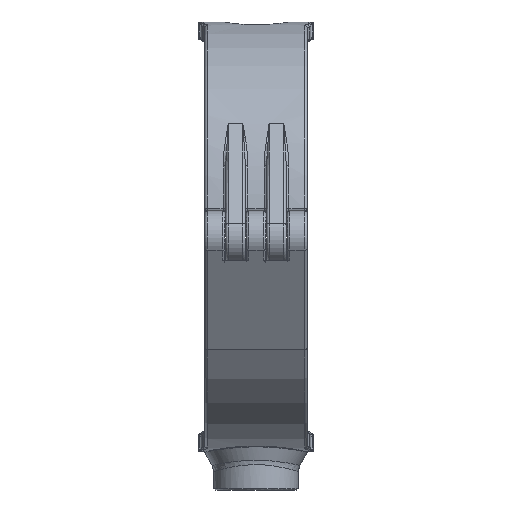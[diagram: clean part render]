
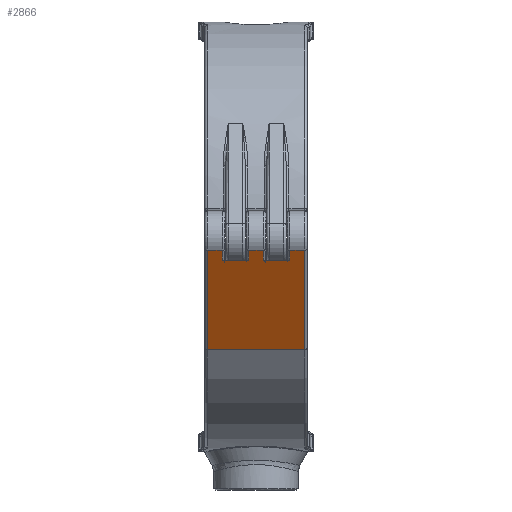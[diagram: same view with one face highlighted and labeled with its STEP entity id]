
A CAD part, front view. The second image highlights one B-rep face of the part: STEP entity #2866.
In plain terms, the highlighted planar face has unit normal (0, -0.851, -0.526).
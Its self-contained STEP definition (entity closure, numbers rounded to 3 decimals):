
#2866=ADVANCED_FACE('',(#4079),#3477,.T.);
#3477=PLANE('',#16539);
#4079=FACE_OUTER_BOUND('',#5144,.T.);
#5144=EDGE_LOOP('',(#8441,#8442,#8443,#8444,#8445,#8446,#8447,#8448,#8449,
#8450,#8451,#8452));
#8441=ORIENTED_EDGE('',*,*,#13098,.T.);
#8442=ORIENTED_EDGE('',*,*,#13108,.T.);
#8443=ORIENTED_EDGE('',*,*,#13109,.F.);
#8444=ORIENTED_EDGE('',*,*,#13110,.T.);
#8445=ORIENTED_EDGE('',*,*,#13111,.T.);
#8446=ORIENTED_EDGE('',*,*,#13112,.T.);
#8447=ORIENTED_EDGE('',*,*,#13113,.T.);
#8448=ORIENTED_EDGE('',*,*,#13114,.T.);
#8449=ORIENTED_EDGE('',*,*,#13104,.T.);
#8450=ORIENTED_EDGE('',*,*,#13115,.T.);
#8451=ORIENTED_EDGE('',*,*,#13116,.F.);
#8452=ORIENTED_EDGE('',*,*,#13117,.T.);
#11324=VERTEX_POINT('',#29482);
#11325=VERTEX_POINT('',#29484);
#11330=VERTEX_POINT('',#29496);
#11331=VERTEX_POINT('',#29498);
#11334=VERTEX_POINT('',#29507);
#11335=VERTEX_POINT('',#29509);
#11336=VERTEX_POINT('',#29511);
#11337=VERTEX_POINT('',#29513);
#11338=VERTEX_POINT('',#29515);
#11339=VERTEX_POINT('',#29517);
#11340=VERTEX_POINT('',#29520);
#11341=VERTEX_POINT('',#29522);
#13098=EDGE_CURVE('',#11325,#11324,#14549,.T.);
#13104=EDGE_CURVE('',#11331,#11330,#14551,.T.);
#13108=EDGE_CURVE('',#11324,#11334,#14552,.T.);
#13109=EDGE_CURVE('',#11335,#11334,#14553,.T.);
#13110=EDGE_CURVE('',#11335,#11336,#14554,.T.);
#13111=EDGE_CURVE('',#11336,#11337,#14555,.T.);
#13112=EDGE_CURVE('',#11337,#11338,#14556,.T.);
#13113=EDGE_CURVE('',#11338,#11339,#14557,.T.);
#13114=EDGE_CURVE('',#11339,#11331,#14558,.T.);
#13115=EDGE_CURVE('',#11330,#11340,#14559,.T.);
#13116=EDGE_CURVE('',#11341,#11340,#14560,.T.);
#13117=EDGE_CURVE('',#11341,#11325,#14561,.T.);
#14549=LINE('',#29483,#15180);
#14551=LINE('',#29497,#15182);
#14552=LINE('',#29506,#15183);
#14553=LINE('',#29508,#15184);
#14554=LINE('',#29510,#15185);
#14555=LINE('',#29512,#15186);
#14556=LINE('',#29514,#15187);
#14557=LINE('',#29516,#15188);
#14558=LINE('',#29518,#15189);
#14559=LINE('',#29519,#15190);
#14560=LINE('',#29521,#15191);
#14561=LINE('',#29523,#15192);
#15180=VECTOR('',#19962,1.);
#15182=VECTOR('',#19976,1.);
#15183=VECTOR('',#19987,1.);
#15184=VECTOR('',#19988,1.);
#15185=VECTOR('',#19989,1.);
#15186=VECTOR('',#19990,1.);
#15187=VECTOR('',#19991,1.);
#15188=VECTOR('',#19992,1.);
#15189=VECTOR('',#19993,1.);
#15190=VECTOR('',#19994,1.);
#15191=VECTOR('',#19995,1.);
#15192=VECTOR('',#19996,1.);
#16539=AXIS2_PLACEMENT_3D('',#29524,#19997,#19998);
#19962=DIRECTION('',(-1.,0.,0.));
#19976=DIRECTION('',(-1.,0.,0.));
#19987=DIRECTION('',(0.,0.526,-0.851));
#19988=DIRECTION('',(-1.,0.,0.));
#19989=DIRECTION('',(0.,-0.526,0.851));
#19990=DIRECTION('',(-1.,0.,0.));
#19991=DIRECTION('',(0.,0.526,-0.851));
#19992=DIRECTION('',(-1.,0.,0.));
#19993=DIRECTION('',(0.,-0.526,0.851));
#19994=DIRECTION('',(0.,0.526,-0.851));
#19995=DIRECTION('',(1.,0.,0.));
#19996=DIRECTION('',(0.,-0.526,0.851));
#19997=DIRECTION('',(0.,-0.851,-0.526));
#19998=DIRECTION('',(0.,0.526,-0.851));
#29482=CARTESIAN_POINT('',(-19.,-95.506,-5.259));
#29483=CARTESIAN_POINT('',(20.,-95.506,-5.259));
#29484=CARTESIAN_POINT('',(-13.15,-95.506,-5.259));
#29496=CARTESIAN_POINT('',(-2.85,-95.506,-5.259));
#29497=CARTESIAN_POINT('',(20.,-95.506,-5.259));
#29498=CARTESIAN_POINT('',(2.85,-95.506,-5.259));
#29506=CARTESIAN_POINT('',(-19.,-71.448,-44.172));
#29507=CARTESIAN_POINT('',(-19.,-71.448,-44.172));
#29508=CARTESIAN_POINT('',(20.,-71.448,-44.172));
#29509=CARTESIAN_POINT('',(19.,-71.448,-44.172));
#29510=CARTESIAN_POINT('',(19.,-95.506,-5.259));
#29511=CARTESIAN_POINT('',(19.,-95.506,-5.259));
#29512=CARTESIAN_POINT('',(20.,-95.506,-5.259));
#29513=CARTESIAN_POINT('',(13.15,-95.506,-5.259));
#29514=CARTESIAN_POINT('',(13.15,-93.096,-9.156));
#29515=CARTESIAN_POINT('',(13.15,-93.096,-9.156));
#29516=CARTESIAN_POINT('',(3.85,-93.096,-9.156));
#29517=CARTESIAN_POINT('',(2.85,-93.096,-9.156));
#29518=CARTESIAN_POINT('',(2.85,-95.506,-5.259));
#29519=CARTESIAN_POINT('',(-2.85,-93.096,-9.156));
#29520=CARTESIAN_POINT('',(-2.85,-93.096,-9.156));
#29521=CARTESIAN_POINT('',(-12.15,-93.096,-9.156));
#29522=CARTESIAN_POINT('',(-13.15,-93.096,-9.156));
#29523=CARTESIAN_POINT('',(-13.15,-95.506,-5.259));
#29524=CARTESIAN_POINT('',(20.,-95.506,-5.259));
